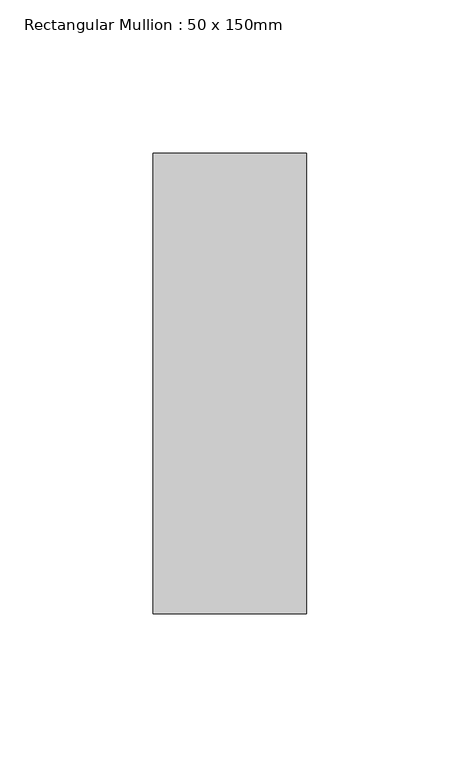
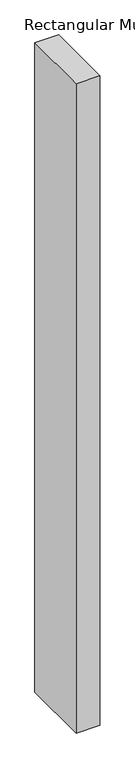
"""IFC4 building model written with IfcOpenShell, lengths in millimetres: member geometry, Rectangular Mullion : 50 x 150mm."""

from ifc_helpers import new_model, si_unit, frame, origin, place, context, project, spatial, polyline, outline, extrude, source, transform, mapped, element, save


def rectangular_mullion_50_x_150mm_d065951c(model_context):
    return source(origin(), model_context, "Body", "SweptSolid", [
        extrude(outline(polyline([(25.0, 75.0), (25.0, -75.0), (-25.0, -75.0), (-25.0, 75.0), (25.0, 75.0)])), frame((0.0, 0.0, -1442.1188549), z_axis=(0.0, 0.0, 1.0), x_axis=(1.0, 0.0, 0.0)), (0.0, 0.0, 1.0), 1442.1188549),
    ])


if __name__ == "__main__":
    model = new_model("IFC4")
    model_context = context("Model", 3, world=origin())
    ifc_project = project(units=[si_unit("LENGTHUNIT", "METRE", prefix="MILLI")], contexts=[model_context])
    site = spatial("IfcSite", under=ifc_project)
    building = spatial("IfcBuilding", under=site)
    placement = place(None, origin())
    rectangular_mullion_50_x_150mm_shape = rectangular_mullion_50_x_150mm_d065951c(model_context)
    element("IfcMember", 1, ObjectType="Rectangular Mullion : 50 x 150mm", at=placement, inside=building, context=model_context, shape_type="MappedRepresentation", body=[
        mapped(rectangular_mullion_50_x_150mm_shape, transform((0.0, 0.0, 0.0), x_axis=(1.0, 0.0, 0.0), y_axis=(0.0, 1.0, 0.0), z_axis=(0.0, 0.0, 1.0))),
    ])
    save(model, "model.ifc")
